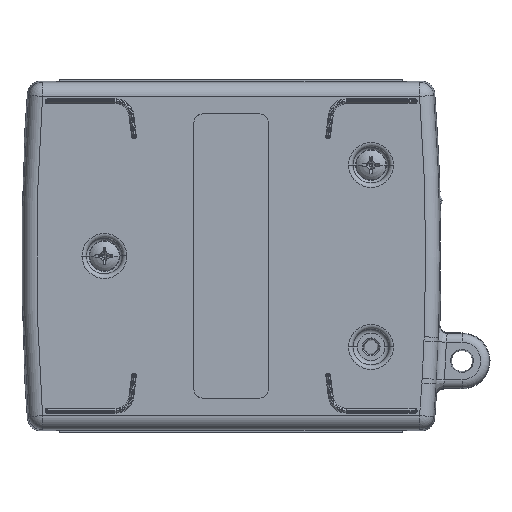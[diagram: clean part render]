
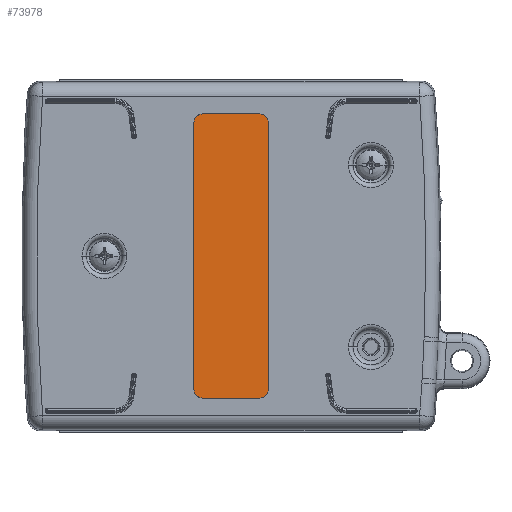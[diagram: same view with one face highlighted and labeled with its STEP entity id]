
A CAD part, front view. The second image highlights one B-rep face of the part: STEP entity #73978.
In plain terms, the highlighted planar face has unit normal (0, -1, 0).
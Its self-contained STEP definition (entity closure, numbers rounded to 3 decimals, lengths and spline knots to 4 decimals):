
#27748=CARTESIAN_POINT('',(-0.2048,0.01,1.0148));
#27749=CARTESIAN_POINT('',(-0.2098,0.01,1.0148));
#27750=CARTESIAN_POINT('',(-0.2187,0.01,1.0136));
#27751=CARTESIAN_POINT('',(-0.2335,0.01,1.0085));
#27752=CARTESIAN_POINT('',(-0.2481,0.01,0.9981));
#27753=CARTESIAN_POINT('',(-0.2585,0.01,0.9835));
#27754=CARTESIAN_POINT('',(-0.2636,0.01,0.9687));
#27755=CARTESIAN_POINT('',(-0.2648,0.01,0.9598));
#27756=CARTESIAN_POINT('',(-0.2648,0.01,0.9548));
#27776=CARTESIAN_POINT('',(0.2648,0.01,0.9548));
#27777=CARTESIAN_POINT('',(0.2648,0.01,0.9598));
#27778=CARTESIAN_POINT('',(0.2636,0.01,0.9687));
#27779=CARTESIAN_POINT('',(0.2585,0.01,0.9835));
#27780=CARTESIAN_POINT('',(0.2481,0.01,0.9981));
#27781=CARTESIAN_POINT('',(0.2335,0.01,1.0085));
#27782=CARTESIAN_POINT('',(0.2187,0.01,1.0136));
#27783=CARTESIAN_POINT('',(0.2098,0.01,1.0148));
#27784=CARTESIAN_POINT('',(0.2048,0.01,1.0148));
#27804=CARTESIAN_POINT('',(0.2048,0.01,-1.0148));
#27805=CARTESIAN_POINT('',(0.2098,0.01,-1.0148));
#27806=CARTESIAN_POINT('',(0.2187,0.01,-1.0136));
#27807=CARTESIAN_POINT('',(0.2335,0.01,-1.0085));
#27808=CARTESIAN_POINT('',(0.2481,0.01,-0.9981));
#27809=CARTESIAN_POINT('',(0.2585,0.01,-0.9835));
#27810=CARTESIAN_POINT('',(0.2636,0.01,-0.9687));
#27811=CARTESIAN_POINT('',(0.2648,0.01,-0.9598));
#27812=CARTESIAN_POINT('',(0.2648,0.01,-0.9548));
#27832=CARTESIAN_POINT('',(-0.2648,0.01,-0.9548));
#27833=CARTESIAN_POINT('',(-0.2648,0.01,-0.9598));
#27834=CARTESIAN_POINT('',(-0.2636,0.01,-0.9687));
#27835=CARTESIAN_POINT('',(-0.2585,0.01,-0.9835));
#27836=CARTESIAN_POINT('',(-0.2481,0.01,-0.9981));
#27837=CARTESIAN_POINT('',(-0.2335,0.01,-1.0085));
#27838=CARTESIAN_POINT('',(-0.2187,0.01,-1.0136));
#27839=CARTESIAN_POINT('',(-0.2098,0.01,-1.0148));
#27840=CARTESIAN_POINT('',(-0.2048,0.01,-1.0148));
#27842=DIRECTION('',(-1.,0.,0.));
#27843=VECTOR('',#27842,0.4097);
#27844=CARTESIAN_POINT('',(0.2048,0.01,1.0148));
#27845=LINE('',#27844,#27843);
#27846=DIRECTION('',(0.,0.,1.));
#27847=VECTOR('',#27846,1.9097);
#27848=CARTESIAN_POINT('',(0.2648,0.01,-0.9548));
#27849=LINE('',#27848,#27847);
#27850=DIRECTION('',(1.,0.,0.));
#27851=VECTOR('',#27850,0.4097);
#27852=CARTESIAN_POINT('',(-0.2048,0.01,-1.0148));
#27853=LINE('',#27852,#27851);
#27854=DIRECTION('',(0.,0.,-1.));
#27855=VECTOR('',#27854,1.9097);
#27856=CARTESIAN_POINT('',(-0.2648,0.01,0.9548));
#27857=LINE('',#27856,#27855);
#27939=CARTESIAN_POINT('',(-0.2648,0.01,0.9548));
#27941=VERTEX_POINT('',#27939);
#27943=CARTESIAN_POINT('',(-0.2048,0.01,1.0148));
#27945=VERTEX_POINT('',#27943);
#27947=CARTESIAN_POINT('',(-0.2048,0.01,-1.0148));
#27949=VERTEX_POINT('',#27947);
#27951=CARTESIAN_POINT('',(-0.2648,0.01,-0.9548));
#27953=VERTEX_POINT('',#27951);
#27955=CARTESIAN_POINT('',(0.2648,0.01,-0.9548));
#27957=VERTEX_POINT('',#27955);
#27959=CARTESIAN_POINT('',(0.2048,0.01,-1.0148));
#27961=VERTEX_POINT('',#27959);
#27963=CARTESIAN_POINT('',(0.2048,0.01,1.0148));
#27965=VERTEX_POINT('',#27963);
#27967=CARTESIAN_POINT('',(0.2648,0.01,0.9548));
#27969=VERTEX_POINT('',#27967);
#73963=CARTESIAN_POINT('',(0.,0.01,0.));
#73964=DIRECTION('',(0.,-1.,0.));
#73965=DIRECTION('',(1.,0.,0.));
#73966=AXIS2_PLACEMENT_3D('',#73963,#73964,#73965);
#73967=PLANE('',#73966);
#73968=ORIENTED_EDGE('',*,*,#73875,.F.);
#73969=ORIENTED_EDGE('',*,*,#73889,.F.);
#73970=ORIENTED_EDGE('',*,*,#73903,.F.);
#73971=ORIENTED_EDGE('',*,*,#73915,.F.);
#73972=ORIENTED_EDGE('',*,*,#73931,.F.);
#73973=ORIENTED_EDGE('',*,*,#73943,.F.);
#73974=ORIENTED_EDGE('',*,*,#73958,.F.);
#73975=ORIENTED_EDGE('',*,*,#73858,.F.);
#73976=EDGE_LOOP('',(#73968,#73969,#73970,#73971,#73972,#73973,#73974,#73975));
#73977=FACE_OUTER_BOUND('',#73976,.F.);
#73978=ADVANCED_FACE('',(#73977),#73967,.T.);
#27757=B_SPLINE_CURVE_WITH_KNOTS('',3,(#27748,#27749,#27750,#27751,#27752,
#27753,#27754,#27755,#27756),.UNSPECIFIED.,.F.,.F.,(4,1,1,1,1,1,4),(0.,
0.125,0.25,0.5,0.75,0.875,1.),.UNSPECIFIED.);
#27785=B_SPLINE_CURVE_WITH_KNOTS('',3,(#27776,#27777,#27778,#27779,#27780,
#27781,#27782,#27783,#27784),.UNSPECIFIED.,.F.,.F.,(4,1,1,1,1,1,4),(0.,
0.125,0.25,0.5,0.75,0.875,1.),.UNSPECIFIED.);
#27813=B_SPLINE_CURVE_WITH_KNOTS('',3,(#27804,#27805,#27806,#27807,#27808,
#27809,#27810,#27811,#27812),.UNSPECIFIED.,.F.,.F.,(4,1,1,1,1,1,4),(0.,
0.125,0.25,0.5,0.75,0.875,1.),.UNSPECIFIED.);
#27841=B_SPLINE_CURVE_WITH_KNOTS('',3,(#27832,#27833,#27834,#27835,#27836,
#27837,#27838,#27839,#27840),.UNSPECIFIED.,.F.,.F.,(4,1,1,1,1,1,4),(0.,
0.125,0.25,0.5,0.75,0.875,1.),.UNSPECIFIED.);
#73858=EDGE_CURVE('',#27941,#27953,#27857,.T.);
#73875=EDGE_CURVE('',#27945,#27941,#27757,.T.);
#73889=EDGE_CURVE('',#27965,#27945,#27845,.T.);
#73903=EDGE_CURVE('',#27969,#27965,#27785,.T.);
#73915=EDGE_CURVE('',#27957,#27969,#27849,.T.);
#73931=EDGE_CURVE('',#27961,#27957,#27813,.T.);
#73943=EDGE_CURVE('',#27949,#27961,#27853,.T.);
#73958=EDGE_CURVE('',#27953,#27949,#27841,.T.);
